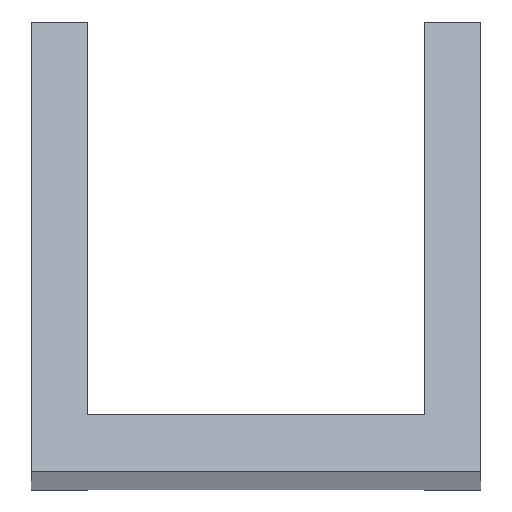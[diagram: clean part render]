
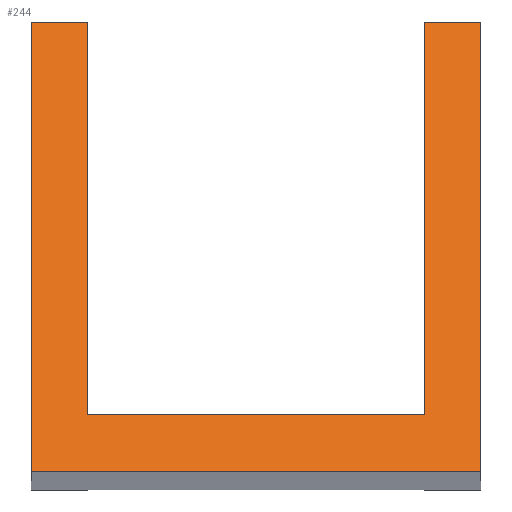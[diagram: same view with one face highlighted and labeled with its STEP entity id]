
A CAD part, top view. The second image highlights one B-rep face of the part: STEP entity #244.
In plain terms, the highlighted planar face has unit normal (0, 0.707, 0.707).
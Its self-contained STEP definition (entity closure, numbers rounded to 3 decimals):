
#32 = VERTEX_POINT('',#33);
#33 = CARTESIAN_POINT('',(579.6,418.032,624.468));
#39 = EDGE_CURVE('',#40,#32,#42,.T.);
#40 = VERTEX_POINT('',#41);
#41 = CARTESIAN_POINT('',(579.6,443.432,599.068));
#42 = LINE('',#43,#44);
#43 = CARTESIAN_POINT('',(579.6,737.883,304.617));
#44 = VECTOR('',#45,1.);
#45 = DIRECTION('',(0.,-0.707,0.707));
#227 = VERTEX_POINT('',#228);
#228 = CARTESIAN_POINT('',(605.,418.032,624.468));
#234 = EDGE_CURVE('',#32,#227,#235,.T.);
#235 = LINE('',#236,#237);
#236 = CARTESIAN_POINT('',(579.6,418.032,624.468));
#237 = VECTOR('',#238,1.);
#238 = DIRECTION('',(1.,0.,0.));
#244 = ADVANCED_FACE('',(#245),#295,.F.);
#245 = FACE_BOUND('',#246,.F.);
#246 = EDGE_LOOP('',(#247,#257,#265,#273,#281,#287,#288,#289));
#247 = ORIENTED_EDGE('',*,*,#248,.F.);
#248 = EDGE_CURVE('',#249,#251,#253,.T.);
#249 = VERTEX_POINT('',#250);
#250 = CARTESIAN_POINT('',(582.775,421.207,621.293));
#251 = VERTEX_POINT('',#252);
#252 = CARTESIAN_POINT('',(582.775,443.432,599.068));
#253 = LINE('',#254,#255);
#254 = CARTESIAN_POINT('',(582.775,738.254,304.246));
#255 = VECTOR('',#256,1.);
#256 = DIRECTION('',(0.,0.707,-0.707));
#257 = ORIENTED_EDGE('',*,*,#258,.T.);
#258 = EDGE_CURVE('',#249,#259,#261,.T.);
#259 = VERTEX_POINT('',#260);
#260 = CARTESIAN_POINT('',(601.825,421.207,621.293));
#261 = LINE('',#262,#263);
#262 = CARTESIAN_POINT('',(578.6,421.207,621.293));
#263 = VECTOR('',#264,1.);
#264 = DIRECTION('',(1.,0.,0.));
#265 = ORIENTED_EDGE('',*,*,#266,.F.);
#266 = EDGE_CURVE('',#267,#259,#269,.T.);
#267 = VERTEX_POINT('',#268);
#268 = CARTESIAN_POINT('',(601.825,443.432,599.068));
#269 = LINE('',#270,#271);
#270 = CARTESIAN_POINT('',(601.825,738.131,304.369));
#271 = VECTOR('',#272,1.);
#272 = DIRECTION('',(0.,-0.707,0.707));
#273 = ORIENTED_EDGE('',*,*,#274,.T.);
#274 = EDGE_CURVE('',#267,#275,#277,.T.);
#275 = VERTEX_POINT('',#276);
#276 = CARTESIAN_POINT('',(605.,443.432,599.068));
#277 = LINE('',#278,#279);
#278 = CARTESIAN_POINT('',(600.825,443.432,599.068));
#279 = VECTOR('',#280,1.);
#280 = DIRECTION('',(1.,0.,0.));
#281 = ORIENTED_EDGE('',*,*,#282,.F.);
#282 = EDGE_CURVE('',#227,#275,#283,.T.);
#283 = LINE('',#284,#285);
#284 = CARTESIAN_POINT('',(605.,737.617,304.883));
#285 = VECTOR('',#286,1.);
#286 = DIRECTION('',(0.,0.707,-0.707));
#287 = ORIENTED_EDGE('',*,*,#234,.F.);
#288 = ORIENTED_EDGE('',*,*,#39,.F.);
#289 = ORIENTED_EDGE('',*,*,#290,.T.);
#290 = EDGE_CURVE('',#40,#251,#291,.T.);
#291 = LINE('',#292,#293);
#292 = CARTESIAN_POINT('',(578.6,443.432,599.068));
#293 = VECTOR('',#294,1.);
#294 = DIRECTION('',(1.,0.,0.));
#295 = PLANE('',#296);
#296 = AXIS2_PLACEMENT_3D('',#297,#298,#299);
#297 = CARTESIAN_POINT('',(570.,478.032,564.468));
#298 = DIRECTION('',(0.,-0.707,-0.707));
#299 = DIRECTION('',(0.,-0.707,0.707));
